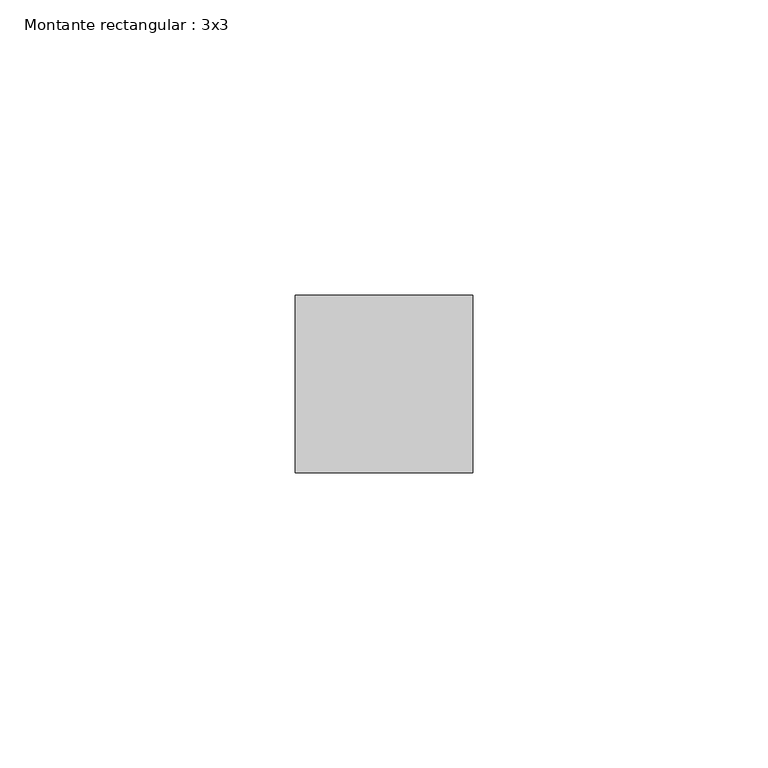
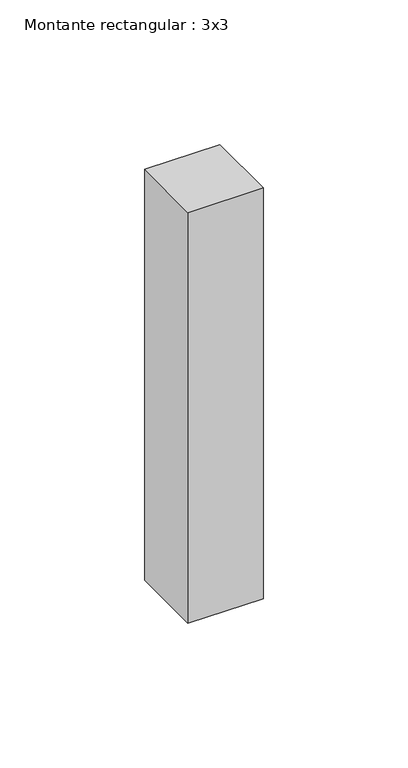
"""IFC4 building model written with IfcOpenShell, lengths in millimetres: member geometry, Montante rectangular : 3x3."""

from ifc_helpers import new_model, si_unit, frame, origin, place, context, project, spatial, polyline, outline, extrude, source, transform, mapped, element, save


def montante_rectangular_3x3_7944bb15(model_context):
    return source(origin(), model_context, "Body", "SweptSolid", [
        extrude(outline(polyline([(0.0, 15.0), (0.0, -15.0), (-30.0, -15.0), (-30.0, 15.0), (0.0, 15.0)])), frame((0.0, 0.0, -173.5244088), z_axis=(0.0, 0.0, 1.0), x_axis=(1.0, 0.0, 0.0)), (0.0, 0.0, 1.0), 173.5244088),
    ])


if __name__ == "__main__":
    model = new_model("IFC4")
    model_context = context("Model", 3, world=origin())
    ifc_project = project(units=[si_unit("LENGTHUNIT", "METRE", prefix="MILLI")], contexts=[model_context])
    site = spatial("IfcSite", under=ifc_project)
    building = spatial("IfcBuilding", under=site)
    placement = place(None, origin())
    montante_rectangular_3x3_shape = montante_rectangular_3x3_7944bb15(model_context)
    element("IfcMember", 1, ObjectType="Montante rectangular : 3x3", at=placement, inside=building, context=model_context, shape_type="MappedRepresentation", body=[
        mapped(montante_rectangular_3x3_shape, transform((0.0, 0.0, 0.0), x_axis=(1.0, 0.0, 0.0), y_axis=(0.0, 1.0, 0.0), z_axis=(0.0, 0.0, 1.0))),
    ])
    save(model, "model.ifc")
